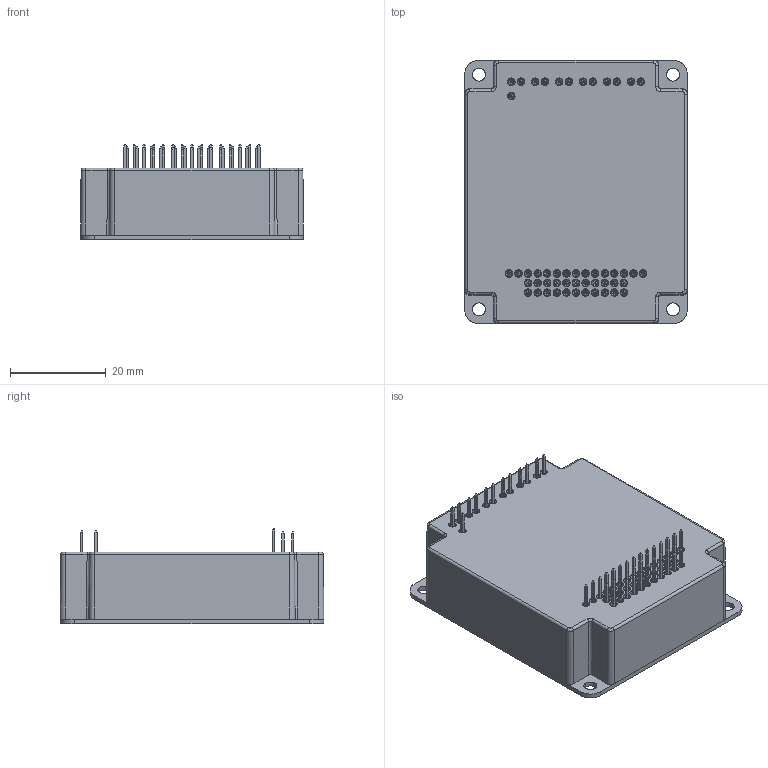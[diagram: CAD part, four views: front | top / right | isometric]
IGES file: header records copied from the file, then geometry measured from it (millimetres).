
Start section: SolidWorks IGES file using analytic representation for surfaces
Global section: file name: F:\ELMO\PRODUCTS\WHISTLE\DRAWING\solid-parts\whistle-full.IGS; native system: SolidWorks 2006 by SolidWorks Corporation; preprocessor: SolidWorks 2006 by SolidWorks Corporation; author: shlomo; date: 060704.125126; units: millimetre
Bounding box: 46.54 x 55.04 x 20 mm (x, y, z)
Surface area: 10295.8 mm2 (no closed solid volume)
Topology: 0 solids, 0 shells, 711 faces, 3520 edges, 3520 vertices
Faces by surface type: bspline 575, revolution 136
